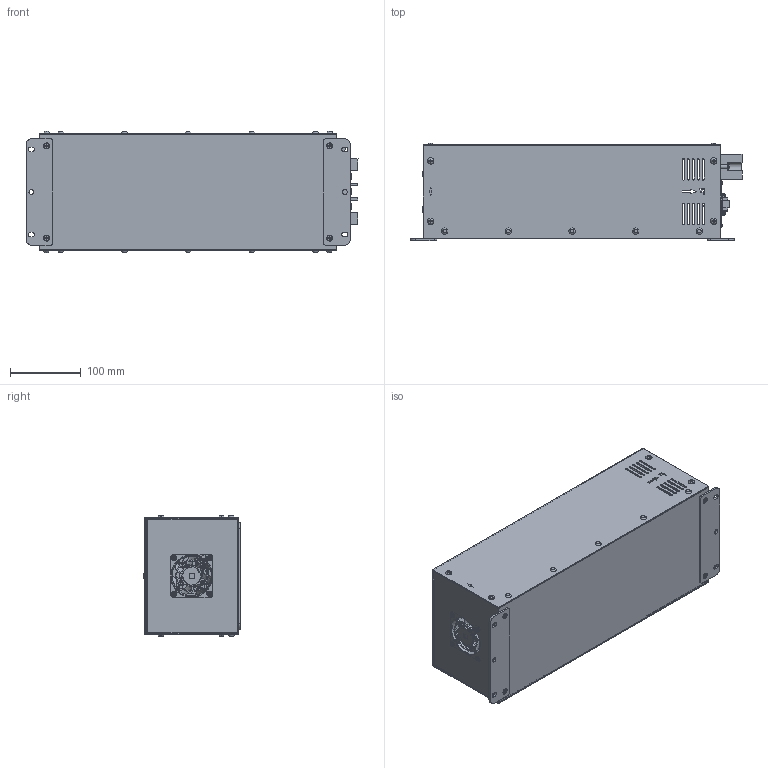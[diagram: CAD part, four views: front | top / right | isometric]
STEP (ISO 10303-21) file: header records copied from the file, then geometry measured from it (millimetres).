
FILE_DESCRIPTION(/* description */ ('','CAx-IF Rec.Pracs.---Representation and Presentation of Product Manufacturing Information (PMI)---4.0---2014-10-13'),/* implementation_level */ '2;1');
FILE_NAME(/* name */ 'H:\04_배터리_전기종\고부하용 배터리 케이스_3D\[NEW] VX2COM 고객용\VX2COM_2023.02.stp',/* time_stamp */ '2023-02-27T11:29:44+09:00',/* author */ ('jjang'),/* organization */ (''),/* preprocessor_version */ 'ST-DEVELOPER v18.1',/* originating_system */ 'Autodesk Inventor 2021',/* authorisation */ '');
FILE_SCHEMA (('AP242_MANAGED_MODEL_BASED_3D_ENGINEERING_MIM_LF { 1 0 10303 442 1 1 4 }'));
Products named in the file (1): VX2COM_2023.02(revision)_Shrinkwrap_2
Bounding box: 468 x 137.59 x 171.09 mm (x, y, z)
Volume: 542010.2 mm3; surface area: 690538.4 mm2
Topology: 7 solids, 7 shells, 3125 faces, 9734 edges, 6924 vertices
Faces by surface type: plane 1816, cylinder 756, bspline 428, torus 73, cone 39, sphere 13
Full cylindrical faces by diameter (mm): 0.609 x1, 0.61 x27, 0.635 x9, 0.9 x2, 1.397 x9, 2.286 x9, 2.8 x8, 2.957 x4, 3 x2, 3.048 x4, 3.2 x4, 3.6 x6, 3.783 x2, 3.8 x10, 3.9 x2, 4 x27, 4.3 x4, 4.5 x6, 5 x16, 5.3 x20, 5.4 x2, 5.429 x2, 5.6 x4, 6 x2, 6.082 x1, 6.6 x2, 7.5 x8, 8 x1, 9 x9, 9.2 x2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
Entity records: 127692 total; most frequent: CARTESIAN_POINT 39531, ORIENTED_EDGE 19450, DIRECTION 15555, EDGE_CURVE 9725, VERTEX_POINT 6924, LINE 5311, VECTOR 5311, AXIS2_PLACEMENT_3D 5122
